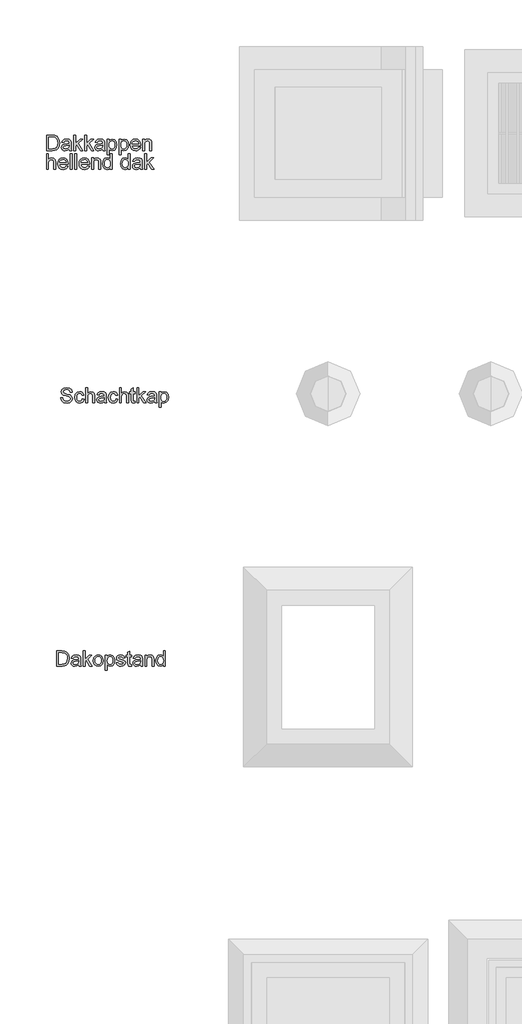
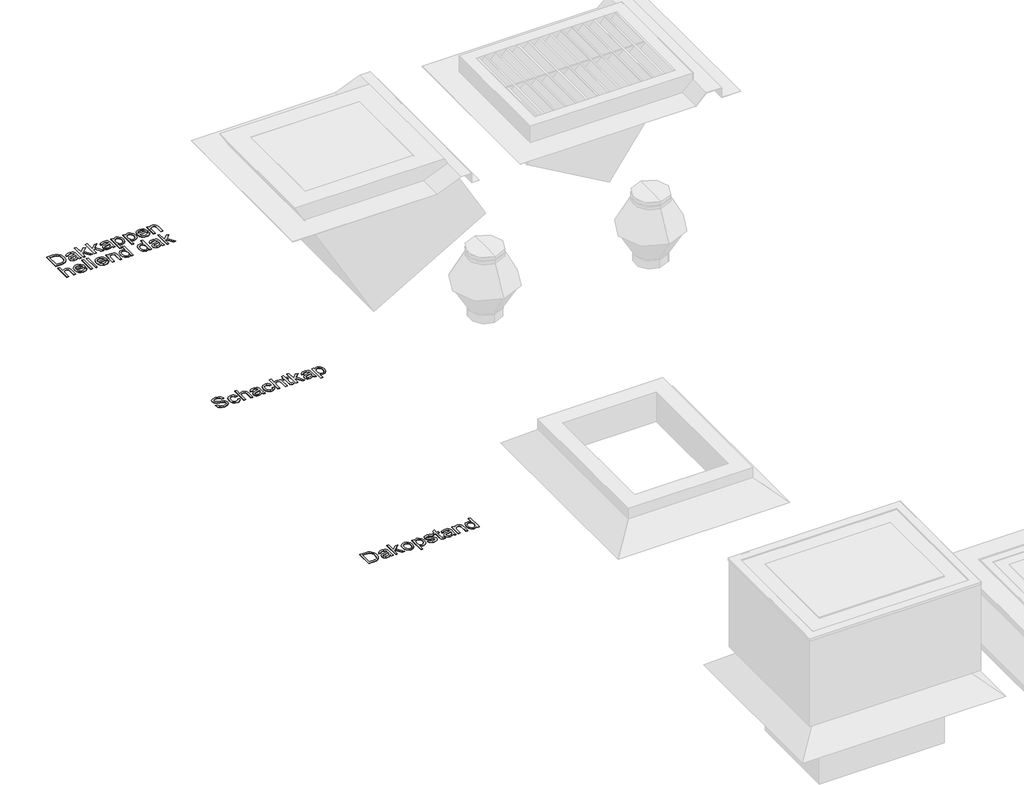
# One storey, part 7 of 10: 3 proxies.
"""IFC4 building model written with IfcOpenShell, lengths in millimetres."""

import ifcopenshell
import ifcopenshell.guid

model = None  # the IFC model being written
_history = None  # IfcOwnerHistory: only IFC2X3 demands one
_inside = {}  # id of a spatial element -> (the spatial element, [elements in it])
_under = {}  # id of a project, library or spatial element -> (it, [spatial elements below it])
_declared = {}  # id of a project -> (the project, [libraries it declares])
_typed = {}  # id of a type object -> (the type object, [elements of that type])
_made_of = {}  # id of a material, layer set ... -> (it, [elements and type objects made of it])


def new_model(schema):
    """Start an empty IFC model of exactly this schema.

    Asked for "IFC4X3", IfcOpenShell would pick the latest addendum, in which some entities
    have other attributes; the version numbers below select the first issue.
    IFC2X3 requires an IfcOwnerHistory on every rooted entity: one is made here for all.
    """
    global model, _history
    if schema == "IFC4X3":
        model = ifcopenshell.file(schema_version=(4, 3, 0, 0))
    else:
        model = ifcopenshell.file(schema=schema)
    _inside.clear()
    _under.clear()
    _declared.clear()
    _typed.clear()
    _made_of.clear()
    _history = None
    if model.schema == "IFC2X3":
        org = make("IfcOrganization", Name="unknown")
        user = make(
            "IfcPersonAndOrganization",
            ThePerson=make("IfcPerson", FamilyName="unknown"),
            TheOrganization=org,
        )
        app = make(
            "IfcApplication",
            ApplicationDeveloper=org,
            Version="unknown",
            ApplicationFullName="unknown",
            ApplicationIdentifier="unknown",
        )
        _history = make(
            "IfcOwnerHistory",
            OwningUser=user,
            OwningApplication=app,
            ChangeAction="ADDED",
            CreationDate=0,
        )
    return model


def make(cls, **values):
    """One entity of the class cls with the attributes given. An attribute that is None is left unset."""
    return model.create_entity(
        cls, **{name: value for name, value in values.items() if value is not None}
    )


def rooted(cls, **values):
    """An entity with a GlobalId (a new one), such as an element, a storey or a relation."""
    return make(cls, GlobalId=ifcopenshell.guid.new(), OwnerHistory=_history, **values)


def si_unit(unit_type, name, prefix=None):
    """IfcSIUnit, for example si_unit("LENGTHUNIT", "METRE", prefix="MILLI")."""
    return make("IfcSIUnit", UnitType=unit_type, Prefix=prefix, Name=name)


def assignment(units):
    """IfcUnitAssignment: the units of a project."""
    return None if units is None else make("IfcUnitAssignment", Units=units)


def point(xyz):
    """IfcCartesianPoint."""
    return None if xyz is None else make("IfcCartesianPoint", Coordinates=xyz)


def direction(xyz):
    """IfcDirection."""
    return None if xyz is None else make("IfcDirection", DirectionRatios=xyz)


def frame(location, z_axis=None, x_axis=None):
    """IfcAxis2Placement3D, a coordinate frame: its origin and axes. An axis left out is left unset."""
    return make(
        "IfcAxis2Placement3D",
        Location=point(location),
        Axis=direction(z_axis),
        RefDirection=direction(x_axis),
    )


def origin():
    """The frame at (0, 0, 0) with its axes left unset."""
    return frame((0.0, 0.0, 0.0))


def origin_with_axes():
    """The frame at (0, 0, 0) with the z axis (0, 0, 1) and the x axis (1, 0, 0) written out."""
    return frame((0.0, 0.0, 0.0), z_axis=(0.0, 0.0, 1.0), x_axis=(1.0, 0.0, 0.0))


def place(relative_to, where):
    """IfcLocalPlacement: puts the frame where relative to a parent placement (None: the world)."""
    return make(
        "IfcLocalPlacement", PlacementRelTo=relative_to, RelativePlacement=where
    )


def context(
    kind, dimensions, precision=None, world=None, true_north=None, identifier=None
):
    """IfcGeometricRepresentationContext, for example the 3D "Model" context."""
    return make(
        "IfcGeometricRepresentationContext",
        ContextIdentifier=identifier,
        ContextType=kind,
        CoordinateSpaceDimension=dimensions,
        Precision=precision,
        WorldCoordinateSystem=world,
        TrueNorth=true_north,
    )


def project(units=None, contexts=None):
    """IfcProject with its units and contexts."""
    return rooted(
        "IfcProject",
        Name="project",
        RepresentationContexts=contexts,
        UnitsInContext=assignment(units),
    )


def spatial(cls, under=None, at=None, **own):
    """A site, building, storey or space (cls), placed at a placement, below another one or the project."""
    s = rooted(cls, ObjectPlacement=at, **own)
    if under is not None:
        _under.setdefault(under.id(), (under, []))[1].append(s)
    return s


def polyline(points):
    """IfcPolyline through the points."""
    return make("IfcPolyline", Points=[point(p) for p in points])


def outline(outer, holes=None, kind="AREA"):
    """IfcArbitraryClosedProfileDef: a profile drawn as a closed curve; with holes, ...WithVoids."""
    if holes is None:
        return make("IfcArbitraryClosedProfileDef", ProfileType=kind, OuterCurve=outer)
    return make(
        "IfcArbitraryProfileDefWithVoids",
        ProfileType=kind,
        OuterCurve=outer,
        InnerCurves=holes,
    )


def extrude(swept, where, along, depth):
    """IfcExtrudedAreaSolid: the profile swept, set in the frame where, extruded along a direction by depth."""
    return make(
        "IfcExtrudedAreaSolid",
        SweptArea=swept,
        Position=where,
        ExtrudedDirection=direction(along),
        Depth=depth,
    )


def shape(context_of_items, identifier, shape_type, items):
    """IfcShapeRepresentation: the items that make up one representation, for example the "Body"."""
    return make(
        "IfcShapeRepresentation",
        ContextOfItems=context_of_items,
        RepresentationIdentifier=identifier,
        RepresentationType=shape_type,
        Items=items,
    )


def made_of(thing, what):
    """Note that an element or type object is made of a material, layer set ...; save() writes the relation."""
    if what is not None:
        _made_of.setdefault(what.id(), (what, []))[1].append(thing)
    return thing


def element(
    cls,
    number,
    at=None,
    inside=None,
    cuts=None,
    type_object=None,
    material=None,
    context=None,
    identifier="Body",
    shape_type=None,
    held_by="IfcProductDefinitionShape",
    body=None,
    shapes=None,
    **own,
):
    """One element of the class cls, such as IfcWall. Its Tag is "e" and its number.

    at: its placement. inside: the storey or other place that contains it. cuts: it is an
    opening in that element (IfcRelVoidsElement). A single representation is given by context,
    identifier, shape_type and body (its items); several are given by shapes. held_by: the class
    of the entity that holds the representations. save() writes the other relations.
    """
    e = rooted(cls, Tag="e%d" % number, ObjectPlacement=at, **own)
    if body is not None:
        shapes = [shape(context, identifier, shape_type, body)]
    if shapes is not None:
        e.Representation = make(held_by, Representations=shapes)
    if inside is not None:
        _inside.setdefault(inside.id(), (inside, []))[1].append(e)
    if cuts is not None:
        rooted(
            "IfcRelVoidsElement", RelatingBuildingElement=cuts, RelatedOpeningElement=e
        )
    if type_object is not None:
        _typed.setdefault(type_object.id(), (type_object, []))[1].append(e)
    return made_of(e, material)


def aggregate(whole, parts):
    """IfcRelAggregates: a whole, such as a stair, and the parts it consists of."""
    return rooted("IfcRelAggregates", RelatingObject=whole, RelatedObjects=parts)


def save(model, path):
    """Write the relations noted so far, then the file.

    IfcRelAggregates (storeys below a building ...), IfcRelContainedInSpatialStructure (elements
    in a storey), IfcRelDefinesByType, IfcRelAssociatesMaterial and IfcRelDeclares: one each for
    every whole, place, type object, material and project.
    """
    for whole, parts in _under.values():
        aggregate(whole, parts)
    for where, things in _inside.values():
        rooted(
            "IfcRelContainedInSpatialStructure",
            RelatedElements=things,
            RelatingStructure=where,
        )
    for kind, things in _typed.values():
        rooted("IfcRelDefinesByType", RelatedObjects=things, RelatingType=kind)
    for what, things in _made_of.values():
        rooted("IfcRelAssociatesMaterial", RelatedObjects=things, RelatingMaterial=what)
    for by, libraries in _declared.values():
        rooted("IfcRelDeclares", RelatingContext=by, RelatedDefinitions=libraries)
    model.write(path)


model = new_model("IFC4")

# Units and contexts
model_context = context("Model", 3, world=origin())
ifc_project = project(units=[si_unit("LENGTHUNIT", "METRE", prefix="MILLI")], contexts=[model_context])

# Site, building, storey
site = spatial("IfcSite", under=ifc_project)
building = spatial("IfcBuilding", under=site)
storey = spatial("IfcBuildingStorey", under=building, Name="Ventilatieroosters", Elevation=0.0)

# Proxies
placement = place(None, origin())
element("IfcBuildingElementProxy", 1, Name="100mm", ObjectType="100mm", at=placement, inside=storey, context=model_context, shape_type="SweptSolid", body=[
    extrude(outline(polyline([(2099.3973546, -12500.7980562), (2099.3973546, -12402.3365178), (2133.3637007, -12402.3365178), (2150.9358161, -12403.754787), (2165.40697, -12410.7980562), (2177.0656238, -12427.6249793), (2180.9358161, -12451.0384408), (2178.3156238, -12470.9062293), (2171.5848546, -12485.2451716), (2162.59447, -12494.1754601), (2150.827643, -12499.1153639), (2134.9983161, -12500.7980562), (2099.3973546, -12500.7980562)]), holes=[polyline([(2111.7050469, -12488.4903639), (2133.483893, -12488.4903639), (2149.3252392, -12486.7115178), (2158.4598546, -12481.6874793), (2165.9478353, -12469.4639216), (2168.6281238, -12450.8461332), (2167.3150228, -12437.4326716), (2163.37572, -12427.5288255), (2150.5992777, -12416.6153639), (2133.1473546, -12414.6442101), (2111.7050469, -12414.6442101), (2111.7050469, -12488.4903639)])]), origin_with_axes(), (0.0, 0.0, 1.0), 2.0),
    extrude(outline(polyline([(2242.4742777, -12491.567287), (2230.5391815, -12499.9086332), (2217.3540853, -12502.3365178), (2207.0686286, -12500.8761812), (2199.4814892, -12496.4951716), (2194.8030036, -12489.8425274), (2193.2435084, -12481.567287), (2195.5992777, -12471.8317101), (2201.7891815, -12464.7644024), (2210.40697, -12460.7259408), (2221.0560084, -12458.8749793), (2242.4021623, -12454.6442101), (2242.4742777, -12451.9038255), (2239.0848546, -12442.817287), (2225.4790853, -12439.2595947), (2213.0271623, -12441.6273832), (2207.0896623, -12450.0288255), (2194.78197, -12448.4903639), (2200.1064892, -12436.4711332), (2210.827643, -12429.4278639), (2227.0656238, -12426.9519024), (2241.9814892, -12429.1394024), (2250.40697, -12434.6321908), (2254.1810084, -12442.9855562), (2254.78197, -12453.754787), (2254.78197, -12469.067287), (2255.40697, -12490.4494985), (2257.858893, -12500.7980562), (2245.5512007, -12500.7980562), (2242.4742777, -12491.567287)]), holes=[polyline([(2242.4742777, -12466.9519024), (2222.6185084, -12470.7259408), (2212.0295661, -12472.7211332), (2207.233893, -12475.9663255), (2205.5512007, -12480.7019024), (2209.2170661, -12487.3605562), (2219.9742777, -12490.0288255), (2232.4262007, -12487.0841139), (2240.4550469, -12479.9567101), (2242.4021623, -12470.4374793), (2242.4742777, -12466.9519024)])]), origin_with_axes(), (0.0, 0.0, 1.0), 2.0),
    extrude(outline(polyline([(2271.7050469, -12500.7980562), (2271.7050469, -12402.3365178), (2284.0127392, -12402.3365178), (2284.0127392, -12455.2451716), (2311.608893, -12428.4903639), (2328.6281238, -12428.4903639), (2300.6954315, -12455.5817101), (2330.1665853, -12500.7980562), (2315.7915853, -12500.7980562), (2291.8733161, -12464.1394024), (2284.0127392, -12471.7595947), (2284.0127392, -12500.7980562), (2271.7050469, -12500.7980562)])), origin_with_axes(), (0.0, 0.0, 1.0), 2.0),
    extrude(outline(polyline([(2337.858893, -12464.6442101), (2340.5211527, -12447.2103158), (2348.5079315, -12434.9567101), (2358.37572, -12428.9531043), (2370.1906238, -12426.9519024), (2383.1203113, -12429.3888014), (2393.4478353, -12436.6994985), (2400.2176671, -12448.3070707), (2402.4742777, -12463.6345947), (2398.483893, -12485.5336332), (2386.8612969, -12497.9254601), (2370.1906238, -12502.3365178), (2357.1046863, -12499.9086332), (2346.7891815, -12492.6249793), (2340.0914652, -12480.7740178), (2337.858893, -12464.6442101)]), holes=[polyline([(2350.1665853, -12464.6201716), (2351.5908642, -12475.7589937), (2355.8637007, -12483.6946908), (2362.2939892, -12488.4452918), (2370.1906238, -12490.0288255), (2378.0512007, -12488.4362774), (2384.46947, -12483.6586332), (2388.7423065, -12475.6177678), (2390.1665853, -12464.2355562), (2388.7332921, -12453.4212533), (2384.4334123, -12445.5937293), (2378.0061286, -12440.8431283), (2370.1906238, -12439.2595947), (2362.2939892, -12440.8371187), (2355.8637007, -12445.5696908), (2351.5908642, -12453.4873591), (2350.1665853, -12464.6201716)])]), origin_with_axes(), (0.0, 0.0, 1.0), 2.0),
    extrude(outline(polyline([(2416.3204315, -12528.4903639), (2416.3204315, -12428.4903639), (2428.6281238, -12428.4903639), (2428.6281238, -12440.5576716), (2437.1377392, -12430.3533447), (2448.6281238, -12426.9519024), (2464.2290853, -12431.7115178), (2474.421393, -12445.1249793), (2477.858893, -12464.0913255), (2473.9766815, -12484.0312293), (2462.702643, -12497.6129601), (2447.1377392, -12502.3365178), (2436.4286046, -12499.1754601), (2428.6281238, -12491.1826716), (2428.6281238, -12528.4903639), (2416.3204315, -12528.4903639)]), holes=[polyline([(2428.6281238, -12465.2211332), (2429.9592536, -12476.254787), (2433.952643, -12483.9711332), (2439.8450709, -12488.5144024), (2446.8733161, -12490.0288255), (2454.015744, -12488.4603158), (2460.0584123, -12483.754787), (2464.1780036, -12475.7559889), (2465.5512007, -12464.3076716), (2464.2110565, -12453.3341139), (2460.1906238, -12445.5095947), (2454.3072103, -12440.8220947), (2447.3781238, -12439.2595947), (2440.421994, -12440.9212533), (2434.31322, -12445.9062293), (2430.0493978, -12454.0582726), (2428.6281238, -12465.2211332)])]), origin_with_axes(), (0.0, 0.0, 1.0), 2.0),
    extrude(outline(polyline([(2487.0896623, -12479.2595947), (2499.3973546, -12477.7211332), (2505.09447, -12486.8557485), (2518.1473546, -12490.0288255), (2530.6954315, -12487.1201716), (2534.78197, -12480.2932485), (2530.671393, -12474.7644024), (2518.0031238, -12471.254787), (2499.46947, -12465.2331524), (2491.3805277, -12458.2019024), (2488.6281238, -12448.2740178), (2490.8396623, -12439.1033447), (2496.8733161, -12432.0961332), (2504.6978353, -12428.4543062), (2515.2867777, -12426.9519024), (2530.2627392, -12429.3677678), (2539.78197, -12435.9062293), (2544.0127392, -12446.9519024), (2531.7050469, -12448.4903639), (2527.077643, -12441.6994985), (2516.2483161, -12439.2595947), (2504.46947, -12441.5913255), (2500.9358161, -12447.0240178), (2502.4021623, -12450.6057485), (2506.9935084, -12453.3220947), (2517.59447, -12455.942287), (2535.6593738, -12461.7355562), (2544.0487969, -12468.2980562), (2547.0896623, -12478.9951716), (2543.5199507, -12490.7740178), (2533.21947, -12499.3196908), (2517.9790853, -12502.3365178), (2505.5692296, -12500.8821908), (2496.5127392, -12496.5192101), (2490.4670661, -12489.2956524), (2487.0896623, -12479.2595947)])), origin_with_axes(), (0.0, 0.0, 1.0), 2.0),
    extrude(outline(polyline([(2587.0896623, -12490.5336332), (2588.6281238, -12501.1586332), (2579.421393, -12502.3365178), (2569.108893, -12500.2932485), (2563.9646623, -12494.9326716), (2562.4742777, -12480.9663255), (2562.4742777, -12440.7980562), (2553.2435084, -12440.7980562), (2553.2435084, -12428.4903639), (2562.4742777, -12428.4903639), (2562.4742777, -12410.9182485), (2574.78197, -12403.6826716), (2574.78197, -12428.4903639), (2587.0896623, -12428.4903639), (2587.0896623, -12440.7980562), (2574.78197, -12440.7980562), (2574.78197, -12480.6057485), (2575.4310084, -12486.9519024), (2577.5343738, -12489.1994985), (2581.7290853, -12490.0288255), (2587.0896623, -12490.5336332)])), origin_with_axes(), (0.0, 0.0, 1.0), 2.0),
    extrude(outline(polyline([(2645.5512007, -12491.567287), (2633.6161046, -12499.9086332), (2620.4310084, -12502.3365178), (2610.1455517, -12500.8761812), (2602.5584123, -12496.4951716), (2597.8799267, -12489.8425274), (2596.3204315, -12481.567287), (2598.6762007, -12471.8317101), (2604.8661046, -12464.7644024), (2613.483893, -12460.7259408), (2624.1329315, -12458.8749793), (2645.4790853, -12454.6442101), (2645.5512007, -12451.9038255), (2642.1617777, -12442.817287), (2628.5560084, -12439.2595947), (2616.1040853, -12441.6273832), (2610.1665853, -12450.0288255), (2597.858893, -12448.4903639), (2603.1834123, -12436.4711332), (2613.9045661, -12429.4278639), (2630.1425469, -12426.9519024), (2645.0584123, -12429.1394024), (2653.483893, -12434.6321908), (2657.2579315, -12442.9855562), (2657.858893, -12453.754787), (2657.858893, -12469.067287), (2658.483893, -12490.4494985), (2660.9358161, -12500.7980562), (2648.6281238, -12500.7980562), (2645.5512007, -12491.567287)]), holes=[polyline([(2645.5512007, -12466.9519024), (2625.6954315, -12470.7259408), (2615.1064892, -12472.7211332), (2610.3108161, -12475.9663255), (2608.6281238, -12480.7019024), (2612.2939892, -12487.3605562), (2623.0512007, -12490.0288255), (2635.5031238, -12487.0841139), (2643.53197, -12479.9567101), (2645.4790853, -12470.4374793), (2645.5512007, -12466.9519024)])]), origin_with_axes(), (0.0, 0.0, 1.0), 2.0),
    extrude(outline(polyline([(2674.78197, -12500.7980562), (2674.78197, -12428.4903639), (2687.0896623, -12428.4903639), (2687.0896623, -12438.5865178), (2696.50072, -12429.8605562), (2709.3492777, -12426.9519024), (2720.9718738, -12429.2956524), (2728.9045661, -12435.4494985), (2732.59447, -12444.4999793), (2733.2435084, -12456.3990178), (2733.2435084, -12500.7980562), (2720.9358161, -12500.7980562), (2720.9358161, -12458.0576716), (2719.5175469, -12447.1682485), (2714.5055277, -12441.411037), (2706.0560084, -12439.2595947), (2692.702643, -12444.0913255), (2688.4929075, -12451.0925274), (2687.0896623, -12462.4326716), (2687.0896623, -12500.7980562), (2674.78197, -12500.7980562)])), origin_with_axes(), (0.0, 0.0, 1.0), 2.0),
    extrude(outline(polyline([(2794.78197, -12500.7980562), (2794.78197, -12489.1874793), (2786.6389411, -12499.0492582), (2775.3829315, -12502.3365178), (2760.1425469, -12497.5769024), (2749.3733161, -12484.2956524), (2745.5512007, -12464.7163255), (2749.0728353, -12445.1249793), (2759.62572, -12431.6394024), (2775.3348546, -12426.9519024), (2786.6810084, -12430.3052678), (2794.78197, -12439.0192101), (2794.78197, -12402.3365178), (2807.0896623, -12402.3365178), (2807.0896623, -12500.7980562), (2794.78197, -12500.7980562)]), holes=[polyline([(2757.858893, -12464.6682485), (2759.2471142, -12475.801061), (2763.4117777, -12483.7187293), (2769.4634603, -12488.4513014), (2776.5127392, -12490.0288255), (2783.5590132, -12488.5234168), (2789.4574507, -12484.0071908), (2793.4508402, -12476.396013), (2794.78197, -12465.6057485), (2793.4268017, -12453.8088735), (2789.3612969, -12445.629787), (2783.312619, -12440.8521428), (2776.0079315, -12439.2595947), (2768.8865373, -12440.7890418), (2763.0512007, -12445.3773832), (2759.15697, -12453.2589937), (2757.858893, -12464.6682485)])]), origin_with_axes(), (0.0, 0.0, 1.0), 2.0),
])
element("IfcBuildingElementProxy", 2, Name="100mm", ObjectType="100mm", at=placement, inside=storey, context=model_context, shape_type="SweptSolid", body=[
    extrude(outline(polyline([(2125.3802733, -10752.7145201), (2137.6879657, -10752.7145201), (2141.6543118, -10765.0342316), (2151.3418118, -10772.8226931), (2166.1014272, -10775.7914431), (2178.9620041, -10773.543847), (2187.2672926, -10767.3659624), (2189.995658, -10759.1087508), (2187.9523887, -10751.4284624), (2179.5870041, -10745.8395201), (2161.666331, -10741.1400008), (2142.3754657, -10735.0702893), (2131.9067157, -10725.9116354), (2128.4571964, -10713.6760585), (2132.7240233, -10699.7457701), (2145.1879657, -10689.9140393), (2163.433158, -10686.5606739), (2182.9043118, -10690.0702893), (2195.885081, -10700.3827893), (2200.7648887, -10715.7914431), (2188.4571964, -10715.7914431), (2181.4860426, -10703.1472124), (2163.9139272, -10698.8683662), (2146.2937349, -10703.0991354), (2140.7648887, -10713.3154816), (2144.683158, -10721.8491354), (2164.7793118, -10728.7241354), (2186.558158, -10734.9020201), (2198.4692157, -10744.8779816), (2202.3033503, -10758.7962508), (2197.8922926, -10773.5198085), (2185.1999849, -10784.2650008), (2166.5821964, -10788.0991354), (2144.5990233, -10783.9645201), (2130.6927733, -10771.512597), (2125.3802733, -10752.7145201)])), origin_with_axes(), (0.0, 0.0, 1.0), 2.0),
    extrude(outline(polyline([(2265.3802733, -10760.4068277), (2277.6879657, -10761.9452893), (2274.2564753, -10772.8918037), (2267.808158, -10781.1640393), (2258.9499849, -10786.3653614), (2248.2889272, -10788.0991354), (2235.1969801, -10785.6802652), (2224.9596003, -10778.4236547), (2218.3520282, -10766.6478133), (2216.1495041, -10750.6712508), (2219.9115233, -10730.2265393), (2231.3778695, -10717.0895201), (2248.120658, -10712.7145201), (2258.5202974, -10714.2169239), (2266.8346003, -10718.7241354), (2272.7991435, -10725.9957701), (2276.1495041, -10735.7914431), (2263.8418118, -10737.3299047), (2258.1326772, -10728.1111547), (2248.2168118, -10725.0222124), (2240.2630858, -10726.5426451), (2233.9499849, -10731.1039431), (2229.8303935, -10738.9525008), (2228.4571964, -10750.3347124), (2229.8003455, -10761.8701691), (2233.8297926, -10769.7457701), (2240.0287108, -10774.2800249), (2247.8802733, -10775.7914431), (2259.478831, -10772.0174047), (2265.3802733, -10760.4068277)])), origin_with_axes(), (0.0, 0.0, 1.0), 2.0),
    extrude(outline(polyline([(2288.4571964, -10786.5606739), (2288.4571964, -10688.0991354), (2300.7648887, -10688.0991354), (2300.7648887, -10724.3010585), (2310.3622445, -10715.6111547), (2322.183158, -10712.7145201), (2336.0052733, -10715.8755777), (2344.3946964, -10724.6135585), (2346.9187349, -10740.7914431), (2346.9187349, -10786.5606739), (2334.6110426, -10786.5606739), (2334.6110426, -10742.0654816), (2330.6927733, -10729.0847124), (2319.5870041, -10725.0222124), (2309.5028695, -10727.762597), (2302.7721003, -10735.1904816), (2300.7648887, -10748.1472124), (2300.7648887, -10786.5606739), (2288.4571964, -10786.5606739)])), origin_with_axes(), (0.0, 0.0, 1.0), 2.0),
    extrude(outline(polyline([(2409.995658, -10777.3299047), (2398.0605618, -10785.6712508), (2384.8754657, -10788.0991354), (2374.5900089, -10786.6387989), (2367.0028695, -10782.2577893), (2362.3243839, -10775.6051451), (2360.7648887, -10767.3299047), (2363.120658, -10757.5943277), (2369.3105618, -10750.5270201), (2377.9283503, -10746.4885585), (2388.5773887, -10744.637597), (2409.9235426, -10740.4068277), (2409.995658, -10737.6664431), (2406.6062349, -10728.5799047), (2393.0004657, -10725.0222124), (2380.5485426, -10727.3900008), (2374.6110426, -10735.7914431), (2362.3033503, -10734.2529816), (2367.6278695, -10722.2337508), (2378.3490233, -10715.1904816), (2394.5870041, -10712.7145201), (2409.5028695, -10714.9020201), (2417.9283503, -10720.3948085), (2421.7023887, -10728.7481739), (2422.3033503, -10739.5174047), (2422.3033503, -10754.8299047), (2422.9283503, -10776.2121162), (2425.3802733, -10786.5606739), (2413.072581, -10786.5606739), (2409.995658, -10777.3299047)]), holes=[polyline([(2409.995658, -10752.7145201), (2390.1398887, -10756.4885585), (2379.5509464, -10758.4837508), (2374.7552733, -10761.7289431), (2373.072581, -10766.4645201), (2376.7384464, -10773.1231739), (2387.495658, -10775.7914431), (2399.947581, -10772.8467316), (2407.9764272, -10765.7193277), (2409.9235426, -10756.200097), (2409.995658, -10752.7145201)])]), origin_with_axes(), (0.0, 0.0, 1.0), 2.0),
    extrude(outline(polyline([(2485.3802733, -10760.4068277), (2497.6879657, -10761.9452893), (2494.2564753, -10772.8918037), (2487.808158, -10781.1640393), (2478.9499849, -10786.3653614), (2468.2889272, -10788.0991354), (2455.1969801, -10785.6802652), (2444.9596003, -10778.4236547), (2438.3520282, -10766.6478133), (2436.1495041, -10750.6712508), (2439.9115233, -10730.2265393), (2451.3778695, -10717.0895201), (2468.120658, -10712.7145201), (2478.5202974, -10714.2169239), (2486.8346003, -10718.7241354), (2492.7991435, -10725.9957701), (2496.1495041, -10735.7914431), (2483.8418118, -10737.3299047), (2478.1326772, -10728.1111547), (2468.2168118, -10725.0222124), (2460.2630858, -10726.5426451), (2453.9499849, -10731.1039431), (2449.8303935, -10738.9525008), (2448.4571964, -10750.3347124), (2449.8003455, -10761.8701691), (2453.8297926, -10769.7457701), (2460.0287108, -10774.2800249), (2467.8802733, -10775.7914431), (2479.478831, -10772.0174047), (2485.3802733, -10760.4068277)])), origin_with_axes(), (0.0, 0.0, 1.0), 2.0),
    extrude(outline(polyline([(2508.4571964, -10786.5606739), (2508.4571964, -10688.0991354), (2520.7648887, -10688.0991354), (2520.7648887, -10724.3010585), (2530.3622445, -10715.6111547), (2542.183158, -10712.7145201), (2556.0052733, -10715.8755777), (2564.3946964, -10724.6135585), (2566.9187349, -10740.7914431), (2566.9187349, -10786.5606739), (2554.6110426, -10786.5606739), (2554.6110426, -10742.0654816), (2550.6927733, -10729.0847124), (2539.5870041, -10725.0222124), (2529.5028695, -10727.762597), (2522.7721003, -10735.1904816), (2520.7648887, -10748.1472124), (2520.7648887, -10786.5606739), (2508.4571964, -10786.5606739)])), origin_with_axes(), (0.0, 0.0, 1.0), 2.0),
    extrude(outline(polyline([(2609.995658, -10776.2962508), (2611.5341195, -10786.9212508), (2602.3273887, -10788.0991354), (2592.0148887, -10786.0558662), (2586.870658, -10780.6952893), (2585.3802733, -10766.7289431), (2585.3802733, -10726.5606739), (2576.1495041, -10726.5606739), (2576.1495041, -10714.2529816), (2585.3802733, -10714.2529816), (2585.3802733, -10696.6808662), (2597.6879657, -10689.4452893), (2597.6879657, -10714.2529816), (2609.995658, -10714.2529816), (2609.995658, -10726.5606739), (2597.6879657, -10726.5606739), (2597.6879657, -10766.3683662), (2598.3370041, -10772.7145201), (2600.4403695, -10774.9621162), (2604.635081, -10775.7914431), (2609.995658, -10776.2962508)])), origin_with_axes(), (0.0, 0.0, 1.0), 2.0),
    extrude(outline(polyline([(2622.3033503, -10786.5606739), (2622.3033503, -10688.0991354), (2634.6110426, -10688.0991354), (2634.6110426, -10741.0077893), (2662.2071964, -10714.2529816), (2679.2264272, -10714.2529816), (2651.2937349, -10741.3443277), (2680.7648887, -10786.5606739), (2666.3898887, -10786.5606739), (2642.4716195, -10749.9020201), (2634.6110426, -10757.5222124), (2634.6110426, -10786.5606739), (2622.3033503, -10786.5606739)])), origin_with_axes(), (0.0, 0.0, 1.0), 2.0),
    extrude(outline(polyline([(2737.6879657, -10777.3299047), (2725.7528695, -10785.6712508), (2712.5677733, -10788.0991354), (2702.2823166, -10786.6387989), (2694.6951772, -10782.2577893), (2690.0166916, -10775.6051451), (2688.4571964, -10767.3299047), (2690.8129657, -10757.5943277), (2697.0028695, -10750.5270201), (2705.620658, -10746.4885585), (2716.2696964, -10744.637597), (2737.6158503, -10740.4068277), (2737.6879657, -10737.6664431), (2734.2985426, -10728.5799047), (2720.6927733, -10725.0222124), (2708.2408503, -10727.3900008), (2702.3033503, -10735.7914431), (2689.995658, -10734.2529816), (2695.3201772, -10722.2337508), (2706.041331, -10715.1904816), (2722.2793118, -10712.7145201), (2737.1951772, -10714.9020201), (2745.620658, -10720.3948085), (2749.3946964, -10728.7481739), (2749.995658, -10739.5174047), (2749.995658, -10754.8299047), (2750.620658, -10776.2121162), (2753.072581, -10786.5606739), (2740.7648887, -10786.5606739), (2737.6879657, -10777.3299047)]), holes=[polyline([(2737.6879657, -10752.7145201), (2717.8321964, -10756.4885585), (2707.2432541, -10758.4837508), (2702.447581, -10761.7289431), (2700.7648887, -10766.4645201), (2704.4307541, -10773.1231739), (2715.1879657, -10775.7914431), (2727.6398887, -10772.8467316), (2735.6687349, -10765.7193277), (2737.6158503, -10756.200097), (2737.6879657, -10752.7145201)])]), origin_with_axes(), (0.0, 0.0, 1.0), 2.0),
    extrude(outline(polyline([(2766.9187349, -10814.2529816), (2766.9187349, -10714.2529816), (2779.2264272, -10714.2529816), (2779.2264272, -10726.3202893), (2787.7360426, -10716.1159624), (2799.2264272, -10712.7145201), (2814.8273887, -10717.4741354), (2825.0196964, -10730.887597), (2828.4571964, -10749.8539431), (2824.5749849, -10769.793847), (2813.3009464, -10783.3755777), (2797.7360426, -10788.0991354), (2787.026908, -10784.9380777), (2779.2264272, -10776.9452893), (2779.2264272, -10814.2529816), (2766.9187349, -10814.2529816)]), holes=[polyline([(2779.2264272, -10750.9837508), (2780.557557, -10762.0174047), (2784.5509464, -10769.7337508), (2790.4433743, -10774.2770201), (2797.4716195, -10775.7914431), (2804.6140474, -10774.2229335), (2810.6567157, -10769.5174047), (2814.776307, -10761.5186066), (2816.1495041, -10750.0702893), (2814.8093599, -10739.0967316), (2810.7889272, -10731.2722124), (2804.9055137, -10726.5847124), (2797.9764272, -10725.0222124), (2791.0202974, -10726.683871), (2784.9115233, -10731.668847), (2780.6477012, -10739.8208902), (2779.2264272, -10750.9837508)])]), origin_with_axes(), (0.0, 0.0, 1.0), 2.0),
])
element("IfcBuildingElementProxy", 3, Name="100mm", ObjectType="100mm", at=placement, inside=storey, context=model_context, shape_type="SweptSolid", body=[
    extrude(outline(polyline([(2034.4292805, -9143.1445851), (2034.4292805, -9042.688275), (2069.0837644, -9042.688275), (2087.0118803, -9044.1352775), (2101.7762111, -9051.3212392), (2113.6710623, -9068.4890656), (2117.6196623, -9092.3768698), (2114.9463865, -9112.6471677), (2108.0792559, -9127.2766084), (2098.9067315, -9136.3878192), (2086.9015157, -9141.4278025), (2070.7514962, -9143.1445851), (2034.4292805, -9143.1445851)]), holes=[polyline([(2046.9863193, -9130.5875464), (2069.2063918, -9130.5875464), (2085.3686741, -9128.7726619), (2094.6883513, -9123.6468394), (2102.3280341, -9111.1756398), (2105.0626236, -9092.1806661), (2103.72292, -9078.4954559), (2099.7038092, -9068.3909637), (2086.6685238, -9057.256402), (2068.8630352, -9055.2453138), (2046.9863193, -9055.2453138), (2046.9863193, -9130.5875464)])]), origin_with_axes(), (0.0, 0.0, 1.0), 2.0),
    extrude(outline(polyline([(2180.4048562, -9133.7268061), (2168.2279621, -9142.2371429), (2154.7757439, -9144.714215), (2144.2819099, -9143.2242929), (2136.5410596, -9138.7545267), (2131.7677907, -9131.9671039), (2130.1767011, -9123.5242121), (2132.5801968, -9113.5913982), (2138.8955044, -9106.3809111), (2147.6878841, -9102.2606327), (2158.5526657, -9100.3721718), (2180.3312798, -9096.0556898), (2180.4048562, -9093.2597866), (2176.9467654, -9083.9891603), (2163.0653515, -9080.3593913), (2150.3611599, -9082.7751497), (2144.3033697, -9091.3468002), (2131.746331, -9089.7771704), (2137.1787218, -9077.5144372), (2148.1170797, -9070.3284756), (2164.6840323, -9067.8023525), (2179.9020841, -9070.03417), (2188.4982601, -9075.638239), (2192.3487583, -9084.1608386), (2192.961895, -9095.1482475), (2192.961895, -9110.7709696), (2193.5995571, -9132.5863719), (2196.1011546, -9143.1445851), (2183.5441159, -9143.1445851), (2180.4048562, -9133.7268061)]), holes=[polyline([(2180.4048562, -9108.6127285), (2160.146821, -9112.4632267), (2149.3433531, -9114.4988405), (2144.4505225, -9117.8097784), (2142.7337399, -9122.6412953), (2146.4738735, -9129.4348495), (2157.4490197, -9132.1571762), (2170.1532113, -9129.1528066), (2178.344717, -9121.8810058), (2180.3312798, -9112.1689212), (2180.4048562, -9108.6127285)])]), origin_with_axes(), (0.0, 0.0, 1.0), 2.0),
    extrude(outline(polyline([(2210.2278233, -9143.1445851), (2210.2278233, -9042.688275), (2222.784862, -9042.688275), (2222.784862, -9096.6688264), (2250.9400974, -9069.3719824), (2268.3041276, -9069.3719824), (2239.8055357, -9097.012183), (2269.8737574, -9143.1445851), (2255.2075285, -9143.1445851), (2230.8046895, -9105.743249), (2222.784862, -9113.5178218), (2222.784862, -9143.1445851), (2210.2278233, -9143.1445851)])), origin_with_axes(), (0.0, 0.0, 1.0), 2.0),
    extrude(outline(polyline([(2280.8611663, -9143.1445851), (2280.8611663, -9042.688275), (2293.4182051, -9042.688275), (2293.4182051, -9096.6688264), (2321.5734405, -9069.3719824), (2338.9374706, -9069.3719824), (2310.4388787, -9097.012183), (2340.5071005, -9143.1445851), (2325.8408716, -9143.1445851), (2301.4380326, -9105.743249), (2293.4182051, -9113.5178218), (2293.4182051, -9143.1445851), (2280.8611663, -9143.1445851)])), origin_with_axes(), (0.0, 0.0, 1.0), 2.0),
    extrude(outline(polyline([(2398.5834048, -9133.7268061), (2386.4065107, -9142.2371429), (2372.9542925, -9144.714215), (2362.4604585, -9143.2242929), (2354.7196082, -9138.7545267), (2349.9463393, -9131.9671039), (2348.3552497, -9123.5242121), (2350.7587454, -9113.5913982), (2357.074053, -9106.3809111), (2365.8664327, -9102.2606327), (2376.7312143, -9100.3721718), (2398.5098284, -9096.0556898), (2398.5834048, -9093.2597866), (2395.125314, -9083.9891603), (2381.2439001, -9080.3593913), (2368.5397085, -9082.7751497), (2362.4819183, -9091.3468002), (2349.9248796, -9089.7771704), (2355.3572704, -9077.5144372), (2366.2956283, -9070.3284756), (2382.8625809, -9067.8023525), (2398.0806327, -9070.03417), (2406.6768087, -9075.638239), (2410.5273069, -9084.1608386), (2411.1404436, -9095.1482475), (2411.1404436, -9110.7709696), (2411.7781057, -9132.5863719), (2414.2797033, -9143.1445851), (2401.7226645, -9143.1445851), (2398.5834048, -9133.7268061)]), holes=[polyline([(2398.5834048, -9108.6127285), (2378.3253696, -9112.4632267), (2367.5219017, -9114.4988405), (2362.6290711, -9117.8097784), (2360.9122885, -9122.6412953), (2364.6524221, -9129.4348495), (2375.6275683, -9132.1571762), (2388.3317599, -9129.1528066), (2396.5232656, -9121.8810058), (2398.5098284, -9112.1689212), (2398.5834048, -9108.6127285)])]), origin_with_axes(), (0.0, 0.0, 1.0), 2.0),
    extrude(outline(polyline([(2428.4063719, -9171.3979224), (2428.4063719, -9069.3719824), (2440.9634106, -9069.3719824), (2440.9634106, -9081.6837665), (2449.6454257, -9071.272706), (2461.3685986, -9067.8023525), (2477.2856263, -9072.6583949), (2487.684424, -9086.3436051), (2491.1915657, -9105.694198), (2487.2307029, -9126.0380724), (2475.7282592, -9139.8949609), (2459.8480197, -9144.714215), (2448.9219245, -9141.4891162), (2440.9634106, -9133.3343986), (2440.9634106, -9171.3979224), (2428.4063719, -9171.3979224)]), holes=[polyline([(2440.9634106, -9106.846895), (2442.3215083, -9118.104084), (2446.3958014, -9125.9767587), (2452.4076064, -9130.6120718), (2459.5782396, -9132.1571762), (2466.8653688, -9130.5568895), (2473.0304579, -9125.7560295), (2477.2335097, -9117.5951806), (2478.6345269, -9105.9149272), (2477.2672322, -9094.7190518), (2473.1653479, -9086.7360126), (2467.1627401, -9081.9535466), (2460.0932744, -9080.3593913), (2452.9962176, -9082.0547142), (2446.7636834, -9087.1406827), (2442.4134788, -9095.4578815), (2440.9634106, -9106.846895)])]), origin_with_axes(), (0.0, 0.0, 1.0), 2.0),
    extrude(outline(polyline([(2505.3182343, -9171.3979224), (2505.3182343, -9069.3719824), (2517.8752731, -9069.3719824), (2517.8752731, -9081.6837665), (2526.5572882, -9071.272706), (2538.2804611, -9067.8023525), (2554.1974887, -9072.6583949), (2564.5962865, -9086.3436051), (2568.1034282, -9105.694198), (2564.1425654, -9126.0380724), (2552.6401216, -9139.8949609), (2536.7598822, -9144.714215), (2525.8337869, -9141.4891162), (2517.8752731, -9133.3343986), (2517.8752731, -9171.3979224), (2505.3182343, -9171.3979224)]), holes=[polyline([(2517.8752731, -9106.846895), (2519.2333708, -9118.104084), (2523.3076639, -9125.9767587), (2529.3194688, -9130.6120718), (2536.490102, -9132.1571762), (2543.7772312, -9130.5568895), (2549.9423203, -9125.7560295), (2554.1453721, -9117.5951806), (2555.5463894, -9105.9149272), (2554.1790946, -9094.7190518), (2550.0772104, -9086.7360126), (2544.0746025, -9081.9535466), (2537.0051368, -9080.3593913), (2529.90808, -9082.0547142), (2523.6755459, -9087.1406827), (2519.3253413, -9095.4578815), (2517.8752731, -9106.846895)])]), origin_with_axes(), (0.0, 0.0, 1.0), 2.0),
    extrude(outline(polyline([(2633.8807289, -9121.1697673), (2646.192513, -9122.7393971), (2641.7564693, -9132.0161548), (2634.6778066, -9138.9507304), (2625.1159404, -9143.2733438), (2613.2302862, -9144.714215), (2598.4966123, -9142.2279458), (2587.1597155, -9134.7691384), (2579.9308343, -9122.8221706), (2577.5212072, -9106.8714204), (2579.9553598, -9090.3841757), (2587.2578174, -9078.0539975), (2598.44143, -9070.3652638), (2612.5190477, -9067.8023525), (2626.1582727, -9070.3591324), (2637.0567768, -9078.029472), (2644.2028846, -9090.3351247), (2646.5849205, -9106.797844), (2646.5113441, -9110.1823584), (2590.078246, -9110.1823584), (2592.2518155, -9119.5817434), (2597.3009959, -9126.4917935), (2604.588125, -9130.7408305), (2613.4755409, -9132.1571762), (2625.787325, -9129.5329513), (2633.8807289, -9121.1697673)]), holes=[polyline([(2590.078246, -9097.6253196), (2634.0278817, -9097.6253196), (2629.0001611, -9086.2455032), (2621.6793094, -9081.8309193), (2612.4699968, -9080.3593913), (2597.0066903, -9085.0560181), (2592.1414509, -9090.5466569), (2590.078246, -9097.6253196)])]), origin_with_axes(), (0.0, 0.0, 1.0), 2.0),
    extrude(outline(polyline([(2659.1419592, -9143.1445851), (2659.1419592, -9069.3719824), (2671.698998, -9069.3719824), (2671.698998, -9079.6726782), (2681.3007181, -9070.769934), (2694.4095798, -9067.8023525), (2706.2676428, -9070.1935855), (2714.3610467, -9076.4721049), (2718.1257058, -9085.705943), (2718.7878934, -9097.8460488), (2718.7878934, -9143.1445851), (2706.2308546, -9143.1445851), (2706.2308546, -9099.538306), (2704.7838521, -9088.4282697), (2699.6702924, -9082.5544205), (2691.049591, -9080.3593913), (2677.4256944, -9085.28901), (2673.1306721, -9092.4320521), (2671.698998, -9104.0019409), (2671.698998, -9143.1445851), (2659.1419592, -9143.1445851)])), origin_with_axes(), (0.0, 0.0, 1.0), 2.0),
    extrude(outline(polyline([(2032.8596507, -9265.119403), (2032.8596507, -9164.6630928), (2045.4166894, -9164.6630928), (2045.4166894, -9201.5984452), (2055.2084819, -9192.7324891), (2067.2688799, -9189.7771704), (2081.3710231, -9193.0022692), (2089.9304108, -9201.9172762), (2092.5055848, -9218.4229151), (2092.5055848, -9265.119403), (2079.948546, -9265.119403), (2079.948546, -9219.7227648), (2075.950895, -9206.479013), (2064.6201296, -9202.3342091), (2054.3316964, -9205.1301123), (2047.4645659, -9212.7084814), (2045.4166894, -9225.9277078), (2045.4166894, -9265.119403), (2032.8596507, -9265.119403)])), origin_with_axes(), (0.0, 0.0, 1.0), 2.0),
    extrude(outline(polyline([(2161.4221452, -9243.1445851), (2173.7339293, -9244.714215), (2169.2978856, -9253.9909726), (2162.2192229, -9260.9255482), (2152.6573567, -9265.2481617), (2140.7717026, -9266.6890328), (2126.0380287, -9264.2027637), (2114.7011318, -9256.7439562), (2107.4722506, -9244.7969884), (2105.0626236, -9228.8462383), (2107.4967761, -9212.3589935), (2114.7992337, -9200.0288153), (2125.9828464, -9192.3400816), (2140.060464, -9189.7771704), (2153.699689, -9192.3339502), (2164.5981931, -9200.0042898), (2171.7443009, -9212.3099426), (2174.1263368, -9228.7726619), (2174.0527604, -9232.1571762), (2117.6196623, -9232.1571762), (2119.7932318, -9241.5565612), (2124.8424122, -9248.4666113), (2132.1295414, -9252.7156484), (2141.0169572, -9254.1319941), (2153.3287413, -9251.5077692), (2161.4221452, -9243.1445851)]), holes=[polyline([(2117.6196623, -9219.6001375), (2161.569298, -9219.6001375), (2156.5415774, -9208.2203211), (2149.2207257, -9203.8057371), (2140.0114131, -9202.3342091), (2124.5481066, -9207.030836), (2119.6828672, -9212.5214747), (2117.6196623, -9219.6001375)])]), origin_with_axes(), (0.0, 0.0, 1.0), 2.0),
    extrude(outline(polyline([(2186.6833756, -9265.119403), (2186.6833756, -9164.6630928), (2199.2404143, -9164.6630928), (2199.2404143, -9265.119403), (2186.6833756, -9265.119403)])), origin_with_axes(), (0.0, 0.0, 1.0), 2.0),
    extrude(outline(polyline([(2218.0759725, -9265.119403), (2218.0759725, -9164.6630928), (2230.6330113, -9164.6630928), (2230.6330113, -9265.119403), (2218.0759725, -9265.119403)])), origin_with_axes(), (0.0, 0.0, 1.0), 2.0),
    extrude(outline(polyline([(2301.1192015, -9243.1445851), (2313.4309856, -9244.714215), (2308.9949419, -9253.9909726), (2301.9162792, -9260.9255482), (2292.354413, -9265.2481617), (2280.4687589, -9266.6890328), (2265.735085, -9264.2027637), (2254.3981881, -9256.7439562), (2247.1693069, -9244.7969884), (2244.7596799, -9228.8462383), (2247.1938324, -9212.3589935), (2254.49629, -9200.0288153), (2265.6799027, -9192.3400816), (2279.7575203, -9189.7771704), (2293.3967453, -9192.3339502), (2304.2952494, -9200.0042898), (2311.4413572, -9212.3099426), (2313.8233931, -9228.7726619), (2313.7498167, -9232.1571762), (2257.3167186, -9232.1571762), (2259.4902881, -9241.5565612), (2264.5394685, -9248.4666113), (2271.8265977, -9252.7156484), (2280.7140135, -9254.1319941), (2293.0257976, -9251.5077692), (2301.1192015, -9243.1445851)]), holes=[polyline([(2257.3167186, -9219.6001375), (2301.2663543, -9219.6001375), (2296.2386337, -9208.2203211), (2288.917782, -9203.8057371), (2279.7084694, -9202.3342091), (2264.2451629, -9207.030836), (2259.3799235, -9212.5214747), (2257.3167186, -9219.6001375)])]), origin_with_axes(), (0.0, 0.0, 1.0), 2.0),
    extrude(outline(polyline([(2326.3804319, -9265.119403), (2326.3804319, -9191.3468002), (2338.9374706, -9191.3468002), (2338.9374706, -9201.6474961), (2348.5391907, -9192.7447518), (2361.6480525, -9189.7771704), (2373.5061155, -9192.1684033), (2381.5995193, -9198.4469227), (2385.3641784, -9207.6807608), (2386.026366, -9219.8208667), (2386.026366, -9265.119403), (2373.4693273, -9265.119403), (2373.4693273, -9221.5131238), (2372.0223247, -9210.4030876), (2366.908765, -9204.5292384), (2358.2880636, -9202.3342091), (2344.664167, -9207.2638279), (2340.3691447, -9214.40687), (2338.9374706, -9225.9767587), (2338.9374706, -9265.119403), (2326.3804319, -9265.119403)])), origin_with_axes(), (0.0, 0.0, 1.0), 2.0),
    extrude(outline(polyline([(2448.8115599, -9265.119403), (2448.8115599, -9253.2736027), (2440.5035581, -9263.3351753), (2429.0195085, -9266.6890328), (2413.4703629, -9261.8329905), (2402.4829539, -9248.2826703), (2398.5834048, -9228.306678), (2402.1763856, -9208.3184229), (2412.9430653, -9194.5596363), (2428.9704576, -9189.7771704), (2440.5464777, -9193.1984729), (2448.8115599, -9202.0889545), (2448.8115599, -9164.6630928), (2461.3685986, -9164.6630928), (2461.3685986, -9265.119403), (2448.8115599, -9265.119403)]), holes=[polyline([(2411.1404436, -9228.2576271), (2412.5567892, -9239.6159837), (2416.8058263, -9247.6940592), (2422.9801124, -9252.5225103), (2430.1722054, -9254.1319941), (2437.3612328, -9252.5960867), (2443.3791691, -9247.9883648), (2447.4534622, -9240.222989), (2448.8115599, -9229.2141203), (2447.4289367, -9217.1782477), (2443.2810672, -9208.8334577), (2437.1098467, -9203.9590213), (2429.6571706, -9202.3342091), (2422.3915012, -9203.8946419), (2416.4379443, -9208.5759403), (2412.4648187, -9216.6172276), (2411.1404436, -9228.2576271)])]), origin_with_axes(), (0.0, 0.0, 1.0), 2.0),
    extrude(outline(polyline([(2564.9641685, -9265.119403), (2564.9641685, -9253.2736027), (2556.6561668, -9263.3351753), (2545.1721171, -9266.6890328), (2529.6229715, -9261.8329905), (2518.6355625, -9248.2826703), (2514.7360134, -9228.306678), (2518.3289942, -9208.3184229), (2529.0956739, -9194.5596363), (2545.1230662, -9189.7771704), (2556.6990863, -9193.1984729), (2564.9641685, -9202.0889545), (2564.9641685, -9164.6630928), (2577.5212072, -9164.6630928), (2577.5212072, -9265.119403), (2564.9641685, -9265.119403)]), holes=[polyline([(2527.2930522, -9228.2576271), (2528.7093979, -9239.6159837), (2532.9584349, -9247.6940592), (2539.132721, -9252.5225103), (2546.3248141, -9254.1319941), (2553.5138414, -9252.5960867), (2559.5317777, -9247.9883648), (2563.6060708, -9240.222989), (2564.9641685, -9229.2141203), (2563.5815453, -9217.1782477), (2559.4336758, -9208.8334577), (2553.2624553, -9203.9590213), (2545.8097793, -9202.3342091), (2538.5441099, -9203.8946419), (2532.5905529, -9208.5759403), (2528.6174274, -9216.6172276), (2527.2930522, -9228.2576271)])]), origin_with_axes(), (0.0, 0.0, 1.0), 2.0),
    extrude(outline(polyline([(2643.4456608, -9255.7016239), (2631.2687667, -9264.2119607), (2617.8165484, -9266.6890328), (2607.3227145, -9265.1991108), (2599.5818642, -9260.7293445), (2594.8085953, -9253.9419217), (2593.2175057, -9245.4990299), (2595.6210014, -9235.566216), (2601.936309, -9228.3557289), (2610.7286887, -9224.2354506), (2621.5934703, -9222.3469897), (2643.3720844, -9218.0305076), (2643.4456608, -9215.2346044), (2639.98757, -9205.9639782), (2626.1061561, -9202.3342091), (2613.4019645, -9204.7499676), (2607.3441743, -9213.3216181), (2594.7871356, -9211.7519882), (2600.2195263, -9199.4892551), (2611.1578843, -9192.3032934), (2627.7248369, -9189.7771704), (2642.9428887, -9192.0089878), (2651.5390647, -9197.6130569), (2655.3895629, -9206.1356564), (2656.0026995, -9217.1230654), (2656.0026995, -9232.7457874), (2656.6403617, -9254.5611897), (2659.1419592, -9265.119403), (2646.5849205, -9265.119403), (2643.4456608, -9255.7016239)]), holes=[polyline([(2643.4456608, -9230.5875464), (2623.1876256, -9234.4380446), (2612.3841577, -9236.4736583), (2607.4913271, -9239.7845963), (2605.7745445, -9244.6161131), (2609.5146781, -9251.4096673), (2620.4898243, -9254.1319941), (2633.1940158, -9251.1276244), (2641.3855216, -9243.8558237), (2643.3720844, -9234.143739), (2643.4456608, -9230.5875464)])]), origin_with_axes(), (0.0, 0.0, 1.0), 2.0),
    extrude(outline(polyline([(2673.2686279, -9265.119403), (2673.2686279, -9164.6630928), (2685.8256666, -9164.6630928), (2685.8256666, -9218.6436443), (2713.980902, -9191.3468002), (2731.3449322, -9191.3468002), (2702.8463403, -9218.9870008), (2732.914562, -9265.119403), (2718.2483331, -9265.119403), (2693.8454941, -9227.7180668), (2685.8256666, -9235.4926396), (2685.8256666, -9265.119403), (2673.2686279, -9265.119403)])), origin_with_axes(), (0.0, 0.0, 1.0), 2.0),
])

save(model, "model.ifc")
